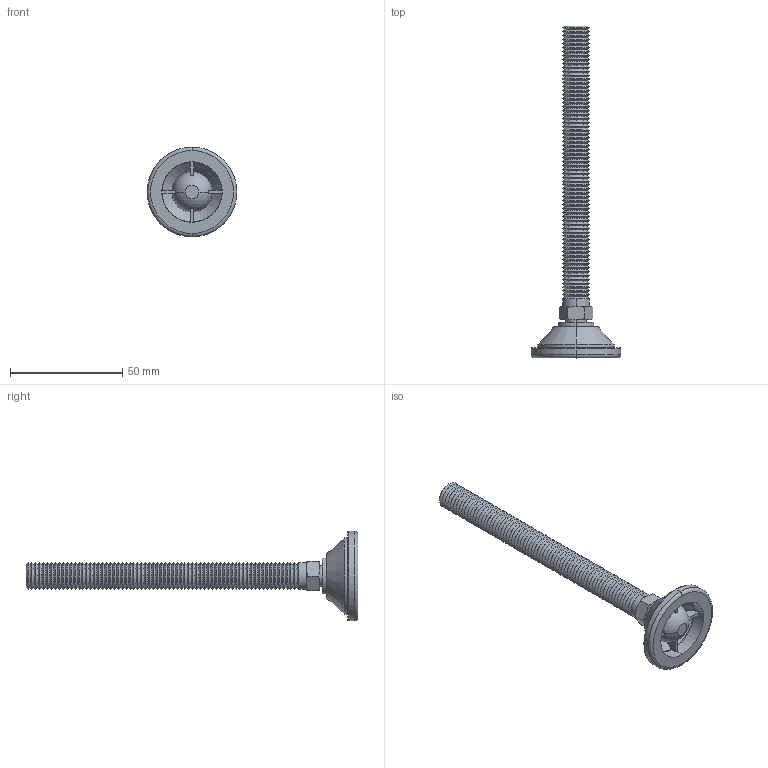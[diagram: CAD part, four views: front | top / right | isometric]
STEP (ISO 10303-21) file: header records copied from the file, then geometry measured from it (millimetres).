
FILE_DESCRIPTION (( 'STEP AP203' ), '1' );
FILE_NAME ('34741.W0126.step', '2016-09-22T07:42:10', ( 'User' ), ( '' ), 'SwSTEP 2.0', 'SolidWorks 2009', '' );
FILE_SCHEMA (( 'CONFIG_CONTROL_DESIGN' ));
Length unit declared in the file: millimetre
Products named in the file (3): 34741.W0126; Part1_34741.W0126; Part2_34741.W0126
Assembly tree (2 placements, depth 2):
  34741.W0126
    Part1_34741.W0126
    Part2_34741.W0126
Bounding box: 40 x 148 x 40 mm (x, y, z)
Volume: 21338.2 mm3; surface area: 13021.8 mm2
Topology: 2 solids, 2 shells, 356 faces, 748 edges, 398 vertices
Faces by surface type: cone 298, plane 26, cylinder 14, torus 12, sphere 6
Entity records: 9645 total; most frequent: DIRECTION 1802, CARTESIAN_POINT 1701, ORIENTED_EDGE 1478, AXIS2_PLACEMENT_3D 742, EDGE_CURVE 739, VERTEX_POINT 393, CIRCLE 381, EDGE_LOOP 362
